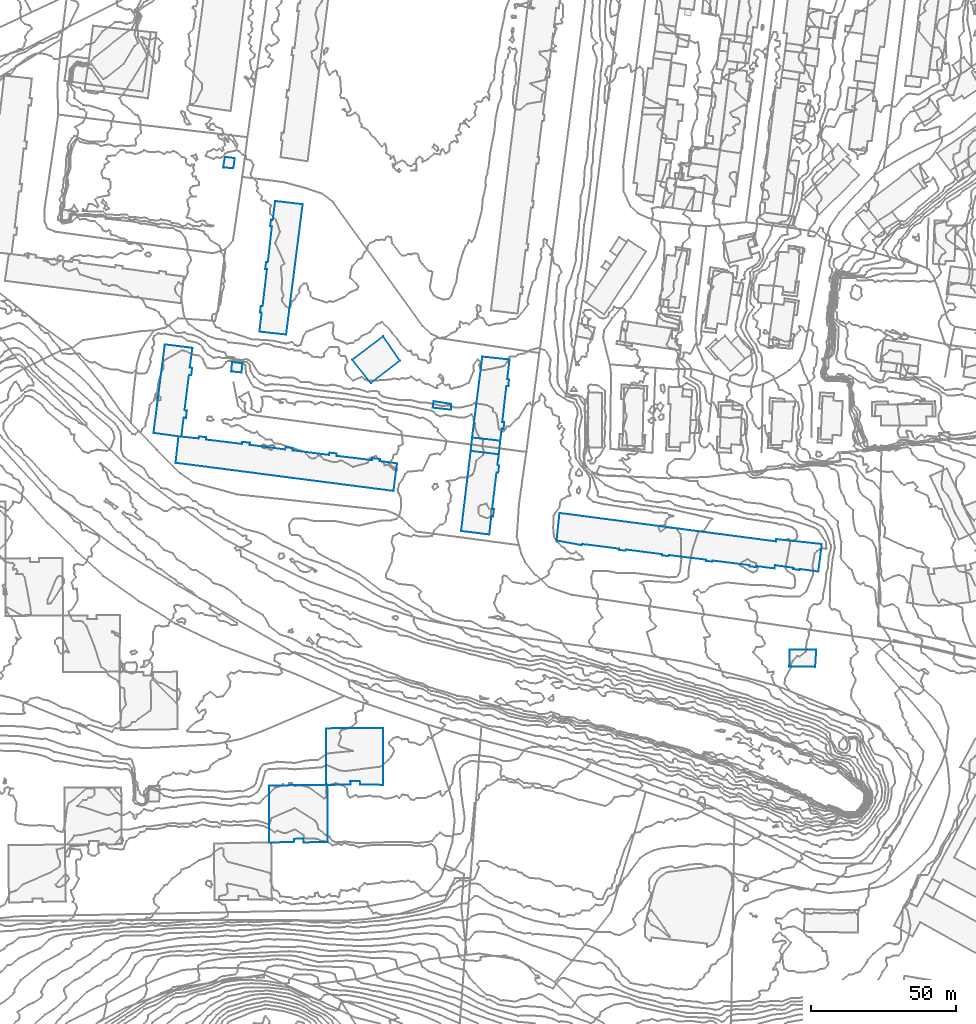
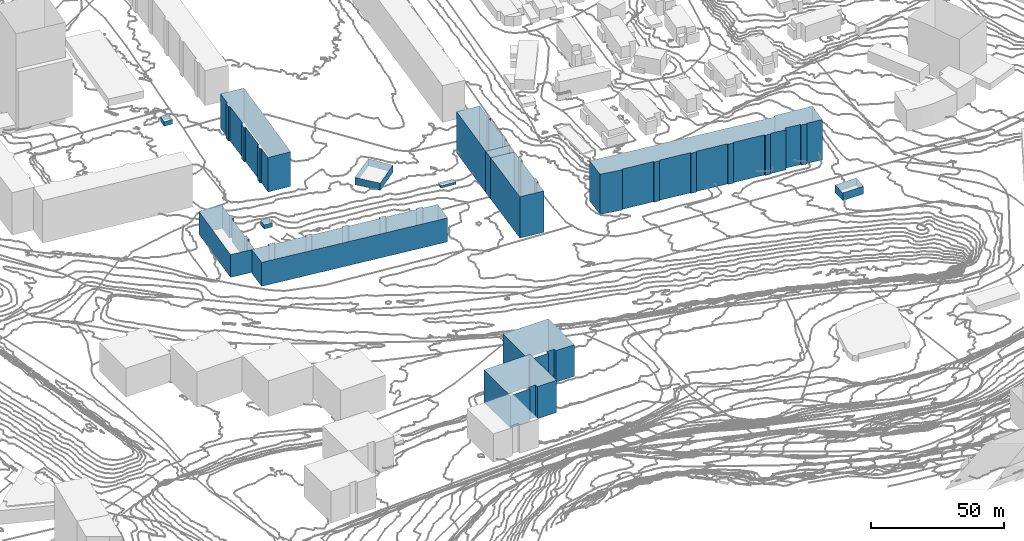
# Not in any storey, part 46 of 419: 14 walls.
"""IFC2X3 model written with IfcOpenShell, lengths in metres."""

from ifc_helpers import new_model, si_unit, frame, origin_with_axes, place, context, subcontext, project, faceted_brep, element, save


model = new_model("IFC2X3")

# Units and contexts
model_context = context("Model", 3, precision=1e-05, world=origin_with_axes())
body_context = subcontext(model_context, "Body", "Model", "MODEL_VIEW")
ifc_project = project(units=[si_unit("AREAUNIT", "SQUARE_METRE"), si_unit("LENGTHUNIT", "METRE")], contexts=[model_context])

# Walls
wall_1_placement = place(None, frame((531.4920204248, 540.9976909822, 34.6650009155), z_axis=(0.0, 0.0, 1.0), x_axis=(1.0, 0.0, 0.0)))
element("IfcWall", 1, at=wall_1_placement, Name="Mur 0", context=body_context, shape_type="Brep", body=[
    faceted_brep([(8.9, -0.0999999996, 3.5349990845), (0.0, 0.0, 3.5349990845), (8.9, -0.0999999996, 0.0), (0.0, 0.0, 0.0), (9.2999999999, 5.9000000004, 3.5349990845), (9.2999999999, 5.9000000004, 0.0), (0.1, 5.9000000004, 3.5349990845), (0.1, 5.9000000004, 0.0)], [[[0, 1, 2]], [[2, 1, 3]], [[4, 0, 5]], [[5, 0, 2]], [[1, 6, 3]], [[3, 6, 7]], [[6, 4, 7]], [[7, 4, 5]]]),
])
wall_2_placement = place(None, frame((380.8920204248, 646.6976909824, 30.5800001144), z_axis=(0.0, 0.0, 1.0), x_axis=(1.0, 0.0, 0.0)))
element("IfcWall", 2, at=wall_2_placement, Name="Mur 0", context=body_context, shape_type="Brep", body=[
    faceted_brep([(0.0, 0.0, 3.3199998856), (10.6, 8.1000000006, 3.3199998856), (0.0, 0.0, 0.0), (10.6, 8.1000000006, 0.0), (6.3999999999, -8.0, 3.3199998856), (6.3999999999, -8.0, 0.0), (16.3999999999, -0.2000000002, 3.3199998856), (16.3999999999, -0.2000000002, 0.0)], [[[0, 1, 2]], [[2, 1, 3]], [[4, 0, 5]], [[5, 0, 2]], [[1, 6, 3]], [[3, 6, 7]], [[6, 4, 7]], [[7, 4, 5]]]),
])
wall_3_placement = place(None, frame((451.2920204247, 584.3976909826, 30.0220005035), z_axis=(0.0, 0.0, 1.0), x_axis=(1.0, 0.0, 0.0)))
element("IfcWall", 3, at=wall_3_placement, Name="Mur 0", context=body_context, shape_type="Brep", body=[
    faceted_brep([(91.4, -1.2000000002, 18.4779994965), (90.2000000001, -10.7000000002, 18.4779994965), (91.4, -1.2000000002, 0.0), (90.2000000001, -10.7000000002, 0.0), (75.7000000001, 0.5, 18.4779994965), (75.7000000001, 0.5, 0.0), (75.7000000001, -0.2999999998, 18.4779994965), (75.7000000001, -0.2999999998, 0.0), (1.0, 9.5, 18.4779994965), (1.0, 9.5, 0.0), (0.0, 0.0, 18.4779994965), (0.0, 0.0, 0.0), (8.7000000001, -1.5999999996, 18.4779994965), (8.7000000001, -1.5999999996, 0.0), (8.8, -1.2000000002, 18.4779994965), (8.8, -1.2000000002, 0.0), (21.6000000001, -2.7999999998, 18.4779994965), (21.6000000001, -2.7999999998, 0.0), (21.6000000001, -3.2000000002, 18.4779994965), (21.6000000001, -3.2000000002, 0.0), (23.8, -3.5, 18.4779994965), (23.8, -3.5, 0.0), (23.9, -3.0999999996, 18.4779994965), (23.9, -3.0999999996, 0.0), (36.4, -4.7000000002, 18.4779994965), (36.4, -4.7000000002, 0.0), (36.4, -5.0999999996, 18.4779994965), (36.4, -5.0999999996, 0.0), (38.6000000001, -5.4000000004, 18.4779994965), (38.6000000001, -5.4000000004, 0.0), (38.7000000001, -5.0, 18.4779994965), (38.7000000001, -5.0, 0.0), (51.5, -6.5999999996, 18.4779994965), (51.5, -6.5999999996, 0.0), (51.5, -7.0, 18.4779994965), (51.5, -7.0, 0.0), (53.7000000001, -7.2999999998, 18.4779994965), (53.7000000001, -7.2999999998, 0.0), (53.8, -6.9000000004, 18.4779994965), (53.8, -6.9000000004, 0.0), (66.5, -8.5, 18.4779994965), (66.5, -8.5, 0.0), (66.5, -8.9000000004, 18.4779994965), (66.5, -8.9000000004, 0.0), (68.7000000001, -9.2000000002, 18.4779994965), (68.7000000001, -9.2000000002, 0.0), (68.8, -8.7999999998, 18.4779994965), (68.8, -8.7999999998, 0.0), (75.1000000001, -9.5999999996, 18.4779994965), (75.1000000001, -9.5999999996, 0.0), (75.3, -8.5, 18.4779994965), (75.3, -8.5, 0.0), (81.6000000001, -9.4000000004, 18.4779994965), (81.6000000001, -9.4000000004, 0.0), (81.5, -9.7999999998, 18.4779994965), (81.5, -9.7999999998, 0.0), (83.8, -10.2000000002, 18.4779994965), (83.8, -10.2000000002, 0.0), (83.8, -9.7999999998, 18.4779994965), (83.8, -9.7999999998, 0.0)], [[[0, 1, 2]], [[2, 1, 3]], [[4, 0, 5]], [[5, 0, 2]], [[6, 4, 7]], [[7, 4, 5]], [[8, 6, 9]], [[9, 6, 7]], [[10, 8, 11]], [[11, 8, 9]], [[12, 10, 13]], [[13, 10, 11]], [[14, 12, 15]], [[15, 12, 13]], [[16, 14, 17]], [[17, 14, 15]], [[18, 16, 19]], [[19, 16, 17]], [[20, 18, 21]], [[21, 18, 19]], [[22, 20, 23]], [[23, 20, 21]], [[24, 22, 25]], [[25, 22, 23]], [[26, 24, 27]], [[27, 24, 25]], [[28, 26, 29]], [[29, 26, 27]], [[30, 28, 31]], [[31, 28, 29]], [[32, 30, 33]], [[33, 30, 31]], [[34, 32, 35]], [[35, 32, 33]], [[36, 34, 37]], [[37, 34, 35]], [[38, 36, 39]], [[39, 36, 37]], [[40, 38, 41]], [[41, 38, 39]], [[42, 40, 43]], [[43, 40, 41]], [[44, 42, 45]], [[45, 42, 43]], [[46, 44, 47]], [[47, 44, 45]], [[48, 46, 49]], [[49, 46, 47]], [[50, 48, 51]], [[51, 48, 49]], [[52, 50, 53]], [[53, 50, 51]], [[54, 52, 55]], [[55, 52, 53]], [[56, 54, 57]], [[57, 54, 55]], [[1, 58, 3]], [[3, 58, 59]], [[58, 56, 59]], [[59, 56, 57]]]),
])
wall_4_placement = place(None, frame((418.3920204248, 587.6976909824, 28.7110006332), z_axis=(0.0, 0.0, 1.0), x_axis=(1.0, 0.0, 0.0)))
element("IfcWall", 4, at=wall_4_placement, Name="Mur 0", context=body_context, shape_type="Brep", body=[
    faceted_brep([(0.0, 0.0, 18.9889993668), (3.2999999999, 27.6000000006, 18.9889993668), (0.0, 0.0, 0.0), (3.2999999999, 27.6000000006, 0.0), (9.7, -1.2000000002, 18.9889993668), (9.7, -1.2000000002, 0.0), (10.3999999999, 5.1000000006, 18.9889993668), (10.3999999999, 5.1000000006, 0.0), (11.0, 5.0, 18.9889993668), (11.0, 5.0, 0.0), (11.2999999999, 7.6000000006, 18.9889993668), (11.2999999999, 7.6000000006, 0.0), (10.7, 7.6000000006, 18.9889993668), (10.7, 7.6000000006, 0.0), (12.2, 20.1000000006, 18.9889993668), (12.2, 20.1000000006, 0.0), (12.7999999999, 20.1000000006, 18.9889993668), (12.7999999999, 20.1000000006, 0.0), (13.1, 22.6000000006, 18.9889993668), (13.1, 22.6000000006, 0.0), (12.5, 22.7000000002, 18.9889993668), (12.5, 22.7000000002, 0.0), (13.0, 26.4000000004, 18.9889993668), (13.0, 26.4000000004, 0.0)], [[[0, 1, 2]], [[2, 1, 3]], [[4, 0, 5]], [[5, 0, 2]], [[6, 4, 7]], [[7, 4, 5]], [[8, 6, 9]], [[9, 6, 7]], [[10, 8, 11]], [[11, 8, 9]], [[12, 10, 13]], [[13, 10, 11]], [[14, 12, 15]], [[15, 12, 13]], [[16, 14, 17]], [[17, 14, 15]], [[18, 16, 19]], [[19, 16, 17]], [[20, 18, 21]], [[21, 18, 19]], [[1, 22, 3]], [[3, 22, 23]], [[22, 20, 23]], [[23, 20, 21]]]),
])
wall_5_placement = place(None, frame((336.3920204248, 712.9976909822, 32.726300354), z_axis=(0.0, 0.0, 1.0), x_axis=(1.0, 0.0, 0.0)))
element("IfcWall", 5, at=wall_5_placement, Name="Mur 0", context=body_context, shape_type="Brep", body=[
    faceted_brep([(3.5, -0.2999999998, 2.073699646), (0.0, 0.0, 2.073699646), (3.5, -0.2999999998, 0.0), (0.0, 0.0, 0.0), (4.0, 3.2000000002, 2.073699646), (4.0, 3.2000000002, 0.0), (0.6, 3.6000000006, 2.073699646), (0.6, 3.6000000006, 0.0)], [[[0, 1, 2]], [[2, 1, 3]], [[4, 0, 5]], [[5, 0, 2]], [[1, 6, 3]], [[3, 6, 7]], [[6, 4, 7]], [[7, 4, 5]]]),
])
wall_6_placement = place(None, frame((421.6920204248, 615.2976909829, 28.7110006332), z_axis=(0.0, 0.0, 1.0), x_axis=(1.0, 0.0, 0.0)))
element("IfcWall", 6, at=wall_6_placement, Name="Mur 0", context=body_context, shape_type="Brep", body=[
    faceted_brep([(9.7000000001, -1.2000000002, 18.9889993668), (0.0, 0.0, 18.9889993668), (9.7000000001, -1.2000000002, 0.0), (0.0, 0.0, 0.0), (10.2000000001, 3.5, 18.9889993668), (10.2000000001, 3.5, 0.0), (0.5, 4.5999999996, 18.9889993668), (0.5, 4.5999999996, 0.0)], [[[0, 1, 2]], [[2, 1, 3]], [[4, 0, 5]], [[5, 0, 2]], [[1, 6, 3]], [[3, 6, 7]], [[6, 4, 7]], [[7, 4, 5]]]),
])
wall_7_placement = place(None, frame((422.1920204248, 619.8976909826, 28.7740003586), z_axis=(0.0, 0.0, 1.0), x_axis=(1.0, 0.0, 0.0)))
element("IfcWall", 7, at=wall_7_placement, Name="Mur 0", context=body_context, shape_type="Brep", body=[
    faceted_brep([(9.7000000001, -1.0999999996, 18.9259996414), (0.0, 0.0, 18.9259996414), (9.7000000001, -1.0999999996, 0.0), (0.0, 0.0, 0.0), (10.2000000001, 3.0999999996, 18.9259996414), (10.2000000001, 3.0999999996, 0.0), (10.8, 3.0, 18.9259996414), (10.8, 3.0, 0.0), (11.1, 5.2999999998, 18.9259996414), (11.1, 5.2999999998, 0.0), (10.4, 5.4000000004, 18.9259996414), (10.4, 5.4000000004, 0.0), (11.8, 17.7999999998, 18.9259996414), (11.8, 17.7999999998, 0.0), (12.5, 17.7000000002, 18.9259996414), (12.5, 17.7000000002, 0.0), (12.7000000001, 20.0, 18.9259996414), (12.7000000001, 20.0, 0.0), (12.1, 20.0999999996, 18.9259996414), (12.1, 20.0999999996, 0.0), (12.9, 26.9000000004, 18.9259996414), (12.9, 26.9000000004, 0.0), (3.5, 27.9000000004, 18.9259996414), (3.5, 27.9000000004, 0.0)], [[[0, 1, 2]], [[2, 1, 3]], [[4, 0, 5]], [[5, 0, 2]], [[6, 4, 7]], [[7, 4, 5]], [[8, 6, 9]], [[9, 6, 7]], [[10, 8, 11]], [[11, 8, 9]], [[12, 10, 13]], [[13, 10, 11]], [[14, 12, 15]], [[15, 12, 13]], [[16, 14, 17]], [[17, 14, 15]], [[18, 16, 19]], [[19, 16, 17]], [[20, 18, 21]], [[21, 18, 19]], [[1, 22, 3]], [[3, 22, 23]], [[22, 20, 23]], [[23, 20, 21]]]),
])
wall_8_placement = place(None, frame((312.3920204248, 621.4976909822, 27.3139995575), z_axis=(0.0, 0.0, 1.0), x_axis=(1.0, 0.0, 0.0)))
element("IfcWall", 8, at=wall_8_placement, Name="Mur 0", context=body_context, shape_type="Brep", body=[
    faceted_brep([(9.6, -1.1999999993, 10.4860004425), (8.6, -1.1999999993, 10.4860004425), (9.6, -1.1999999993, 0.0), (8.6, -1.1999999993, 0.0), (10.3999999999, 5.3000000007, 10.4860004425), (10.3999999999, 5.3000000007, 0.0), (11.2, 5.2000000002, 10.4860004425), (11.2, 5.2000000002, 0.0), (11.5, 7.7000000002, 10.4860004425), (11.5, 7.7000000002, 0.0), (10.7, 7.8000000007, 10.4860004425), (10.7, 7.8000000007, 0.0), (12.2, 20.0, 10.4860004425), (12.2, 20.0, 0.0), (13.0, 19.9000000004, 10.4860004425), (13.0, 19.9000000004, 0.0), (13.2999999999, 22.4000000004, 10.4860004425), (13.2999999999, 22.4000000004, 0.0), (12.5, 22.5, 10.4860004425), (12.5, 22.5, 0.0), (13.3999999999, 29.3000000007, 10.4860004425), (13.3999999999, 29.3000000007, 0.0), (3.8999999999, 30.5, 10.4860004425), (3.8999999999, 30.5, 0.0), (0.0, 0.0, 10.4860004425), (0.0, 0.0, 0.0)], [[[0, 1, 2]], [[2, 1, 3]], [[4, 0, 5]], [[5, 0, 2]], [[6, 4, 7]], [[7, 4, 5]], [[8, 6, 9]], [[9, 6, 7]], [[10, 8, 11]], [[11, 8, 9]], [[12, 10, 13]], [[13, 10, 11]], [[14, 12, 15]], [[15, 12, 13]], [[16, 14, 17]], [[17, 14, 15]], [[18, 16, 19]], [[19, 16, 17]], [[20, 18, 21]], [[21, 18, 19]], [[22, 20, 23]], [[23, 20, 21]], [[1, 24, 3]], [[3, 24, 25]], [[24, 22, 25]], [[25, 22, 23]]]),
])
wall_9_placement = place(None, frame((339.1920204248, 642.6976909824, 27.2629993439), z_axis=(0.0, 0.0, 1.0), x_axis=(1.0, 0.0, 0.0)))
element("IfcWall", 9, at=wall_9_placement, Name="Mur 0", context=body_context, shape_type="Brep", body=[
    faceted_brep([(3.9, 2.7999999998, 1.9370006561), (3.5, -0.3999999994, 1.9370006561), (3.9, 2.7999999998, 0.0), (3.5, -0.3999999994, 0.0), (0.3, 3.2000000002, 1.9370006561), (0.3, 3.2000000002, 0.0), (0.0, 0.0, 1.9370006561), (0.0, 0.0, 0.0)], [[[0, 1, 2]], [[2, 1, 3]], [[4, 0, 5]], [[5, 0, 2]], [[1, 6, 3]], [[3, 6, 7]], [[6, 4, 7]], [[7, 4, 5]]]),
])
wall_10_placement = place(None, frame((352.1920204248, 499.9976909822, 29.8795999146), z_axis=(0.0, 0.0, 1.0), x_axis=(1.0, 0.0, 0.0)))
element("IfcWall", 10, at=wall_10_placement, Name="Mur 0", context=body_context, shape_type="Brep", body=[
    faceted_brep([(0.0, 0.0, 14.8204000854), (19.6, 0.2000000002, 14.8204000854), (0.0, 0.0, 0.0), (19.6, 0.2000000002, 0.0), (0.1, -19.6999999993, 14.8204000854), (0.1, -19.6999999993, 0.0), (8.7000000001, -19.3999999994, 14.8204000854), (8.7000000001, -19.3999999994, 0.0), (8.7000000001, -18.3999999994, 14.8204000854), (8.7000000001, -18.3999999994, 0.0), (11.8, -18.1999999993, 14.8204000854), (11.8, -18.1999999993, 0.0), (12.0, -19.5999999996, 14.8204000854), (12.0, -19.5999999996, 0.0), (20.2000000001, -19.5, 14.8204000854), (20.2000000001, -19.5, 0.0), (20.1, 0.3000000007, 14.8204000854), (20.1, 0.3000000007, 0.0)], [[[0, 1, 2]], [[2, 1, 3]], [[4, 0, 5]], [[5, 0, 2]], [[6, 4, 7]], [[7, 4, 5]], [[8, 6, 9]], [[9, 6, 7]], [[10, 8, 11]], [[11, 8, 9]], [[12, 10, 13]], [[13, 10, 11]], [[14, 12, 15]], [[15, 12, 13]], [[1, 16, 3]], [[3, 16, 17]], [[16, 14, 17]], [[17, 14, 15]]]),
])
wall_11_placement = place(None, frame((371.7920204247, 500.1976909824, 27.8021002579), z_axis=(0.0, 0.0, 1.0), x_axis=(1.0, 0.0, 0.0)))
element("IfcWall", 11, at=wall_11_placement, Name="Mur 0", context=body_context, shape_type="Brep", body=[
    faceted_brep([(19.8, 0.0, 14.4978997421), (11.8, 0.2000000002, 14.4978997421), (19.8, 0.0, 0.0), (11.8, 0.2000000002, 0.0), (19.8, 19.6000000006, 14.4978997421), (19.8, 19.6000000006, 0.0), (0.1000000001, 19.5, 14.4978997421), (0.1000000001, 19.5, 0.0), (0.0, 0.0, 14.4978997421), (0.0, 0.0, 0.0), (8.5, 0.1000000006, 14.4978997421), (8.5, 0.1000000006, 0.0), (8.4, 1.4000000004, 14.4978997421), (8.4, 1.4000000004, 0.0), (11.7000000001, 1.2999999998, 14.4978997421), (11.7000000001, 1.2999999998, 0.0)], [[[0, 1, 2]], [[2, 1, 3]], [[4, 0, 5]], [[5, 0, 2]], [[6, 4, 7]], [[7, 4, 5]], [[8, 6, 9]], [[9, 6, 7]], [[10, 8, 11]], [[11, 8, 9]], [[12, 10, 13]], [[13, 10, 11]], [[1, 14, 3]], [[3, 14, 15]], [[14, 12, 15]], [[15, 12, 13]]]),
])
wall_12_placement = place(None, frame((408.5920204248, 630.1976909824, 29.3080005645), z_axis=(0.0, 0.0, 1.0), x_axis=(1.0, 0.0, 0.0)))
element("IfcWall", 12, at=wall_12_placement, Name="Mur 0", context=body_context, shape_type="Brep", body=[
    faceted_brep([(6.4, 1.2999999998, 1.0919994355), (6.3, -0.7000000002, 1.0919994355), (6.4, 1.2999999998, 0.0), (6.3, -0.7000000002, 0.0), (0.3, 2.2000000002, 1.0919994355), (0.3, 2.2000000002, 0.0), (0.0, 0.0, 1.0919994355), (0.0, 0.0, 0.0)], [[[0, 1, 2]], [[2, 1, 3]], [[4, 0, 5]], [[5, 0, 2]], [[1, 6, 3]], [[3, 6, 7]], [[6, 4, 7]], [[7, 4, 5]]]),
])
wall_13_placement = place(None, frame((348.8920204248, 656.3976909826, 32.5450000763), z_axis=(0.0, 0.0, 1.0), x_axis=(1.0, 0.0, 0.0)))
element("IfcWall", 13, at=wall_13_placement, Name="Mur 0", context=body_context, shape_type="Brep", body=[
    faceted_brep([(14.8999999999, 43.9000000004, 15.8549999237), (9.2, -1.0, 15.8549999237), (14.8999999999, 43.9000000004, 0.0), (9.2, -1.0, 0.0), (5.3999999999, 45.0, 15.8549999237), (5.3999999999, 45.0, 0.0), (4.6, 38.5, 15.8549999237), (4.6, 38.5, 0.0), (4.0, 38.5999999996, 15.8549999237), (4.0, 38.5999999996, 0.0), (3.7, 36.2999999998, 15.8549999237), (3.7, 36.2999999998, 0.0), (4.2999999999, 36.2000000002, 15.8549999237), (4.2999999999, 36.2000000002, 0.0), (2.8999999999, 23.9000000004, 15.8549999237), (2.8999999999, 23.9000000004, 0.0), (2.2999999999, 23.9000000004, 15.8549999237), (2.2999999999, 23.9000000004, 0.0), (2.0, 21.5999999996, 15.8549999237), (2.0, 21.5999999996, 0.0), (2.6, 21.5, 15.8549999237), (2.6, 21.5, 0.0), (1.1, 8.7999999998, 15.8549999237), (1.1, 8.7999999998, 0.0), (0.5, 8.9000000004, 15.8549999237), (0.5, 8.9000000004, 0.0), (0.2, 6.5999999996, 15.8549999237), (0.2, 6.5999999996, 0.0), (0.7999999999, 6.5, 15.8549999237), (0.7999999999, 6.5, 0.0), (0.0, 0.0, 15.8549999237), (0.0, 0.0, 0.0)], [[[0, 1, 2]], [[2, 1, 3]], [[4, 0, 5]], [[5, 0, 2]], [[6, 4, 7]], [[7, 4, 5]], [[8, 6, 9]], [[9, 6, 7]], [[10, 8, 11]], [[11, 8, 9]], [[12, 10, 13]], [[13, 10, 11]], [[14, 12, 15]], [[15, 12, 13]], [[16, 14, 17]], [[17, 14, 15]], [[18, 16, 19]], [[19, 16, 17]], [[20, 18, 21]], [[21, 18, 19]], [[22, 20, 23]], [[23, 20, 21]], [[24, 22, 25]], [[25, 22, 23]], [[26, 24, 27]], [[27, 24, 25]], [[28, 26, 29]], [[29, 26, 27]], [[1, 30, 3]], [[3, 30, 31]], [[30, 28, 31]], [[31, 28, 29]]]),
])
wall_14_placement = place(None, frame((319.9920204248, 611.1976909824, 26.8159996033), z_axis=(0.0, 0.0, 1.0), x_axis=(1.0, 0.0, 0.0)))
element("IfcWall", 14, at=wall_14_placement, Name="Mur 0", context=body_context, shape_type="Brep", body=[
    faceted_brep([(0.0, 0.0, 10.9840003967), (1.0, 9.1000000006, 10.9840003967), (0.0, 0.0, 0.0), (1.0, 9.1000000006, 0.0), (75.1, -9.7000000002, 10.9840003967), (75.1, -9.7000000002, 0.0), (76.2999999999, -0.2000000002, 10.9840003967), (76.2999999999, -0.2000000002, 0.0), (70.2999999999, 0.6000000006, 10.9840003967), (70.2999999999, 0.6000000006, 0.0), (70.4, 1.2999999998, 10.9840003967), (70.4, 1.2999999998, 0.0), (67.7999999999, 1.6000000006, 10.9840003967), (67.7999999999, 1.6000000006, 0.0), (67.7, 0.9000000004, 10.9840003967), (67.7, 0.9000000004, 0.0), (55.5, 2.4000000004, 10.9840003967), (55.5, 2.4000000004, 0.0), (55.5, 3.2000000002, 10.9840003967), (55.5, 3.2000000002, 0.0), (53.0, 3.5, 10.9840003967), (53.0, 3.5, 0.0), (52.9, 2.7000000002, 10.9840003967), (52.9, 2.7000000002, 0.0), (40.2999999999, 4.2999999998, 10.9840003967), (40.2999999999, 4.2999999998, 0.0), (40.4, 5.0, 10.9840003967), (40.4, 5.0, 0.0), (37.9, 5.4000000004, 10.9840003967), (37.9, 5.4000000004, 0.0), (37.7999999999, 4.6000000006, 10.9840003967), (37.7999999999, 4.6000000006, 0.0), (25.5, 6.2000000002, 10.9840003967), (25.5, 6.2000000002, 0.0), (25.6, 6.9000000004, 10.9840003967), (25.6, 6.9000000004, 0.0), (23.0, 7.2000000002, 10.9840003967), (23.0, 7.2000000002, 0.0), (22.9, 6.5, 10.9840003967), (22.9, 6.5, 0.0), (10.5, 8.0, 10.9840003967), (10.5, 8.0, 0.0), (10.6, 8.7999999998, 10.9840003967), (10.6, 8.7999999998, 0.0), (8.1, 9.1000000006, 10.9840003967), (8.1, 9.1000000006, 0.0), (8.0, 8.4000000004, 10.9840003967), (8.0, 8.4000000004, 0.0)], [[[0, 1, 2]], [[2, 1, 3]], [[4, 0, 5]], [[5, 0, 2]], [[6, 4, 7]], [[7, 4, 5]], [[8, 6, 9]], [[9, 6, 7]], [[10, 8, 11]], [[11, 8, 9]], [[12, 10, 13]], [[13, 10, 11]], [[14, 12, 15]], [[15, 12, 13]], [[16, 14, 17]], [[17, 14, 15]], [[18, 16, 19]], [[19, 16, 17]], [[20, 18, 21]], [[21, 18, 19]], [[22, 20, 23]], [[23, 20, 21]], [[24, 22, 25]], [[25, 22, 23]], [[26, 24, 27]], [[27, 24, 25]], [[28, 26, 29]], [[29, 26, 27]], [[30, 28, 31]], [[31, 28, 29]], [[32, 30, 33]], [[33, 30, 31]], [[34, 32, 35]], [[35, 32, 33]], [[36, 34, 37]], [[37, 34, 35]], [[38, 36, 39]], [[39, 36, 37]], [[40, 38, 41]], [[41, 38, 39]], [[42, 40, 43]], [[43, 40, 41]], [[44, 42, 45]], [[45, 42, 43]], [[1, 46, 3]], [[3, 46, 47]], [[46, 44, 47]], [[47, 44, 45]]]),
])

save(model, "model.ifc")
